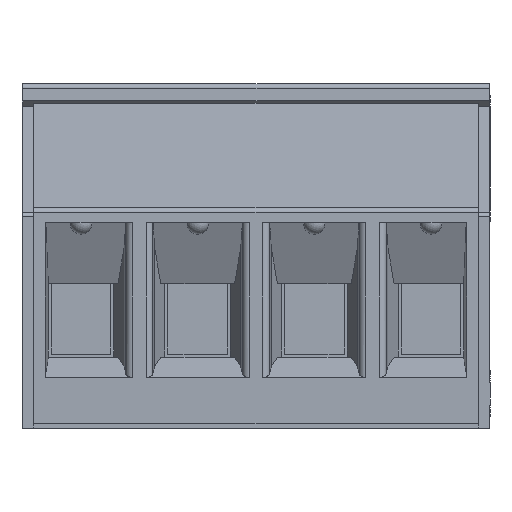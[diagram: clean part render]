
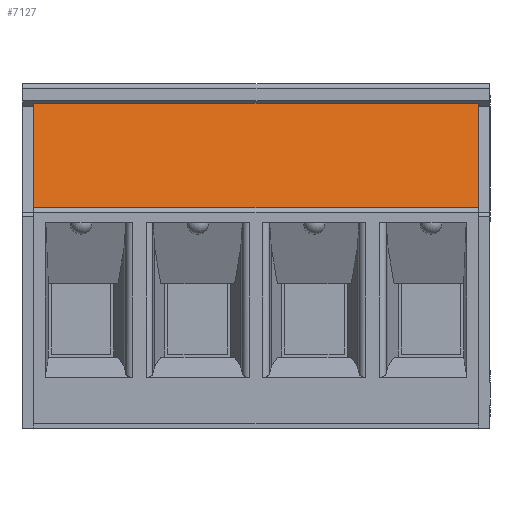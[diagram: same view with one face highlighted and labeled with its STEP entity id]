
A CAD part, front view. The second image highlights one B-rep face of the part: STEP entity #7127.
In plain terms, the highlighted planar face has unit normal (0, -0.985, 0.174).
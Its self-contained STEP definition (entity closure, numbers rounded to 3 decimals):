
#7127=ADVANCED_FACE('',(#18330),#18331,.T.);
#9185=VERTEX_POINT('',#20957);
#9189=VERTEX_POINT('',#20961);
#9191=EDGE_CURVE('',#9185,#9189,#20963,.T.);
#13805=VERTEX_POINT('',#25601);
#13807=EDGE_CURVE('',#9185,#13805,#25603,.T.);
#13945=VERTEX_POINT('',#25741);
#13947=EDGE_CURVE('',#9189,#13945,#25743,.T.);
#13949=EDGE_CURVE('',#13805,#13945,#25745,.T.);
#18330=FACE_OUTER_BOUND('',#30132,.T.);
#18331=PLANE('',#30133);
#20957=CARTESIAN_POINT('',(19.83,0.872,14.15));
#20961=CARTESIAN_POINT('',(19.83,0.07,9.6));
#20963=LINE('',#33609,#33610);
#25601=CARTESIAN_POINT('',(0.49,0.872,14.15));
#25603=LINE('',#41156,#41157);
#25741=CARTESIAN_POINT('',(0.49,0.07,9.6));
#25743=LINE('',#41383,#41384);
#25745=LINE('',#41387,#41388);
#30132=EDGE_LOOP('',(#51479,#51480,#51481,#51482));
#30133=AXIS2_PLACEMENT_3D('',#51483,#51484,#51485);
#33609=CARTESIAN_POINT('',(19.83,0.872,14.15));
#33610=VECTOR('',#55797,1.0);
#41156=CARTESIAN_POINT('',(2.54,0.872,14.15));
#41157=VECTOR('',#57486,1.0);
#41383=CARTESIAN_POINT('',(2.54,0.07,9.6));
#41384=VECTOR('',#57537,1.0);
#41387=CARTESIAN_POINT('',(0.49,0.872,14.15));
#41388=VECTOR('',#57538,1.0);
#51479=ORIENTED_EDGE('',*,*,#13947,.F.);
#51480=ORIENTED_EDGE('',*,*,#9191,.F.);
#51481=ORIENTED_EDGE('',*,*,#13807,.T.);
#51482=ORIENTED_EDGE('',*,*,#13949,.T.);
#51483=CARTESIAN_POINT('',(0.439,0.892,14.264));
#51484=DIRECTION('',(0.0,-0.985,0.174));
#51485=DIRECTION('',(0.0,-0.174,-0.985));
#55797=DIRECTION('',(0.0,-0.174,-0.985));
#57486=DIRECTION('',(-1.0,0.0,0.0));
#57537=DIRECTION('',(-1.0,0.0,0.0));
#57538=DIRECTION('',(0.0,-0.174,-0.985));
